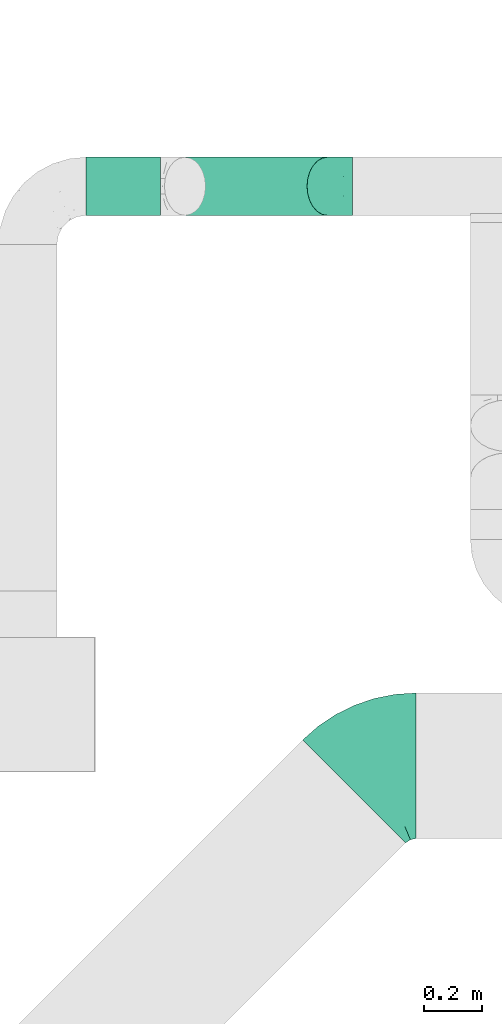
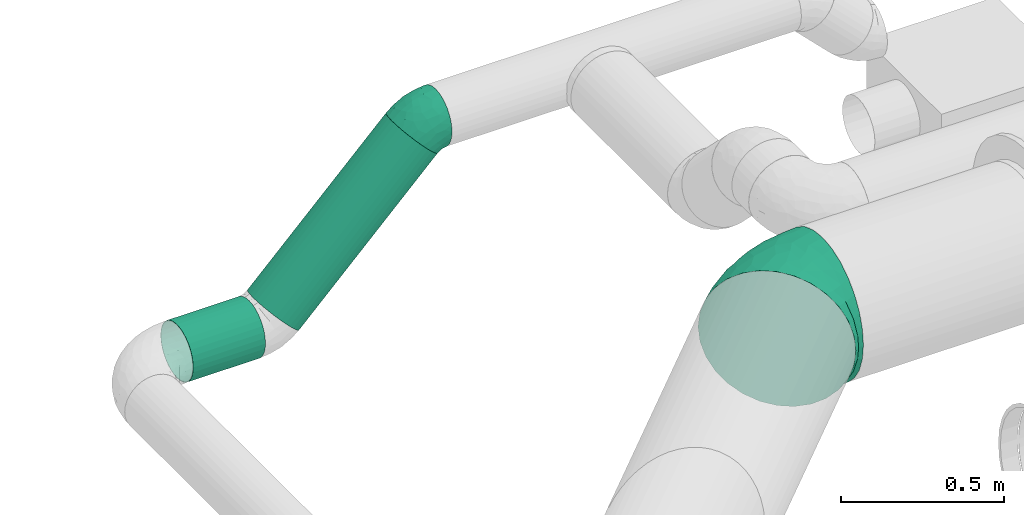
# One storey, part 11 of 31: 2 flow fittings, 2 flow segments.
"""IFC2X3 building model written with IfcOpenShell, lengths in millimetres."""

from ifc_helpers import new_model, entity, si_unit, converted_unit, derived_unit, direction, frame, origin_with_axes, origin_2d_with_axis, place, context, subcontext, project, spatial, hollow_circle, extrude, open_shell, surface_model, source, transform, mapped, type_object, element, save


model = new_model("IFC2X3")

# Units and contexts
model_context = context("Model", 3, precision=0.01, world=frame((0.0, 4.29681676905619e-09, 0.0)), true_north=direction((4.01073788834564e-13, 1.0)))
plan_context = context("Plan", 3, precision=0.01, world=frame((0.0, 4.29681676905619e-09, 0.0)), true_north=direction((4.01073788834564e-13, 1.0)))
body_context = subcontext(model_context, "Body", "Model", "MODEL_VIEW")
ifc_project = project(units=[converted_unit("PLANEANGLEUNIT", "DEGREE", entity("IfcPositiveLengthMeasure", 0.0174532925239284), si_unit("PLANEANGLEUNIT", "RADIAN"), dimensions=[0, 0, 0, 0, 0, 0, 0]), si_unit("AREAUNIT", "SQUARE_METRE"), si_unit("LENGTHUNIT", "METRE", prefix="MILLI"), si_unit("MASSUNIT", "GRAM", prefix="KILO"), si_unit("POWERUNIT", "WATT"), si_unit("PRESSUREUNIT", "PASCAL", prefix="KILO"), si_unit("FORCEUNIT", "NEWTON", prefix="KILO"), si_unit("ELECTRICVOLTAGEUNIT", "VOLT"), si_unit("ELECTRICCURRENTUNIT", "AMPERE"), si_unit("THERMODYNAMICTEMPERATUREUNIT", "DEGREE_CELSIUS"), si_unit("TIMEUNIT", "SECOND"), si_unit("VOLUMEUNIT", "CUBIC_METRE"), derived_unit("LINEARVELOCITYUNIT", [(si_unit("LENGTHUNIT", "METRE"), 1), (si_unit("TIMEUNIT", "SECOND"), -1)]), derived_unit("VOLUMETRICFLOWRATEUNIT", [(si_unit("VOLUMEUNIT", "CUBIC_METRE"), 1), (si_unit("TIMEUNIT", "SECOND"), -1)]), derived_unit("THERMALTRANSMITTANCEUNIT", [(si_unit("POWERUNIT", "WATT"), 1), (si_unit("THERMODYNAMICTEMPERATUREUNIT", "KELVIN"), -1), (si_unit("AREAUNIT", "SQUARE_METRE"), -1)]), derived_unit("SOUNDPRESSUREUNIT", [(si_unit("PRESSUREUNIT", "PASCAL"), 1)])], contexts=[model_context, plan_context])

# Site, building, storey
site_placement = place(None, frame((0.0, -4.29681676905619e-09, 0.0), z_axis=(0.0, 0.0, 1.0), x_axis=(1.0, 0.0, 0.0)))
site = spatial("IfcSite", under=ifc_project, at=site_placement, CompositionType="ELEMENT")
building_placement = place(site_placement, frame((0.0, 4.29681676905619e-09, 0.0), z_axis=(0.0, 0.0, 1.0), x_axis=(1.0, 0.0, 0.0)))
building = spatial("IfcBuilding", under=site, at=building_placement, Name="mc-building", CompositionType="ELEMENT")
storey_placement = place(building_placement, frame((0.0, 0.0, 210900.0), z_axis=(0.0, 0.0, 1.0), x_axis=(1.0, 0.0, 0.0)))
storey = spatial("IfcBuildingStorey", under=building, at=storey_placement, Name="Nivå F", CompositionType="ELEMENT", Elevation=210900.0)

# Flow fittings
duct_fitting_type = type_object("IfcDuctFittingType", Name="magicirc_elbow_short_001", PredefinedType="BEND")
shared_shape_1 = source(origin_with_axes(), body_context, "Body", "SurfaceModel", [
    surface_model("IfcShellBasedSurfaceModel", [(-124.26407, 0.0, -250.0), (-124.26407, -108.47093, -225.24221), (-124.26407, 55.63023, -243.73198), (-124.26407, 108.47093, -225.24221), (-124.26407, 155.87244, -195.45787), (-124.26407, 195.45787, -155.87244), (-124.26407, 243.73198, -55.63023), (-124.26407, 225.24221, -108.47093), (-124.26407, -250.0, 0.0), (-124.26407, -243.73198, 55.63023), (-124.26407, -155.87244, -195.45787), (-124.26407, -55.63023, -243.73198), (-124.26407, -225.24221, -108.47093), (-124.26407, -195.45787, -155.87244), (-124.26407, -243.73198, -55.63023), (-124.26407, 225.24221, 108.47093), (-124.26407, 243.73198, 55.63023), (-124.26407, 250.0, 0.0), (-124.26407, 195.45787, 155.87244), (-124.26407, 155.87244, 195.45787), (-124.26407, -195.45787, 155.87244), (-124.26407, 108.47093, 225.24221), (-124.26407, 55.63023, 243.73198), (-124.26407, 0.0, 250.0), (-124.26407, -225.24221, 108.47093), (-124.26407, -108.47093, 225.24221), (-124.26407, -55.63023, 243.73198), (-124.26407, -155.87244, 195.45787), (48.53145, 127.20448, -243.73198), (127.20448, 48.53145, -243.73198), (87.86797, 87.86797, -250.0), (-50.34162, 226.07755, -155.87244), (11.16743, 164.5685, -225.24221), (-71.40233, 247.13826, -108.47093), (-84.47657, 260.2125, -55.63023), (-22.3505, 198.08644, -195.45787), (-50.34162, 226.07755, 155.87244), (247.13826, -71.40233, -108.47093), (198.08644, -22.3505, -195.45787), (164.5685, 11.16743, -225.24221), (226.07755, -50.34162, -155.87244), (264.64466, -88.90873, 0.0), (260.2125, -84.47657, -55.63023), (-22.3505, 198.08644, 195.45787), (-71.40233, 247.13826, 108.47093), (-84.47657, 260.2125, 55.63023), (11.16743, 164.5685, 225.24221), (48.53145, 127.20448, 243.73198), (87.86797, 87.86797, 250.0), (247.13826, -71.40233, 108.47093), (164.5685, 11.16743, 225.24221), (226.07755, -50.34162, 155.87244), (260.2125, -84.47657, 55.63023), (127.20448, 48.53145, 243.73198), (198.08644, -22.3505, 195.45787), (-88.90873, 264.64466, 0.0), (-90.45276, 124.02841, 218.87221), (-91.29459, 169.55488, 187.41752), (-98.68552, -248.32349, 0.0), (-69.42755, -238.38074, 65.87002), (153.34237, -48.71188, 203.14038), (-52.47466, -245.29468, 0.0), (-76.6666, -216.92271, 120.37881), (-22.89006, -216.92012, 105.24681), (217.65332, -119.46794, 65.87002), (180.64533, -156.32916, 0.0), (210.55472, -136.34434, 0.0), (-60.85928, -185.74402, 162.63886), (-73.98493, -142.87393, 203.14038), (-83.39213, 71.51366, 240.60628), (-67.30817, 13.9977, 249.85946), (73.43929, -100.41393, 202.53266), (13.85174, -54.30021, 236.76331), (26.85313, -105.62493, 211.77383), (-79.75907, -93.02021, 231.02734), (18.08641, -231.25921, 0.0), (31.47339, -218.76937, 64.10343), (-12.38539, -232.71705, 52.90321), (-50.05253, 120.83747, 226.38), (-55.33839, 184.44843, 187.41754), (8.39934, 109.53494, 240.60626), (118.79401, -188.00815, 48.81791), (86.21182, -208.13373, 0.0), (118.47387, -192.22386, 0.0), (-76.90491, -39.94821, 246.23375), (174.37486, -88.30686, 162.63886), (82.62762, 26.13229, 246.23375), (37.69616, 57.49191, 249.85946), (-97.69053, 235.8458, 96.65448), (-103.71583, 250.39217, 42.8242), (-105.12989, 253.80602, 0.0), (-23.74157, 151.66109, 218.87221), (-31.90323, -27.98993, 246.65716), (-39.57952, 42.84314, 248.28201), (-86.07174, 207.79558, 149.73476), (36.6163, -190.48641, 125.53417), (57.55935, -141.01975, 176.52244), (-6.93499, -157.46464, 181.17025), (168.1542, -159.36852, 51.94573), (169.57139, -137.19997, 105.24681), (207.59899, -99.17604, 120.37881), (42.35083, 2.7671, 246.65716), (115.55917, -106.89858, 181.12833), (245.37243, -105.81003, 0.0), (-17.19413, -238.27693, 0.0), (-6.59652, 63.81406, 247.37605), (-12.71298, -191.00061, 145.19814), (121.99205, -9.63542, 230.99042), (137.83324, -132.71637, 141.78754), (105.44893, -165.89734, 119.75665), (137.26371, -165.70422, 87.69769), (-27.37301, -98.77366, 224.31491), (68.664, -168.11276, 141.19415), (-4.4639, 10.77677, 249.65902), (88.81264, -50.91073, 224.2359), (-38.98412, 82.5717, 241.00831), (150.73593, -176.31397, 0.0), (75.56208, -197.19449, 82.92058), (67.46947, -211.94417, 40.66553), (52.14911, -219.69647, 0.0), (-83.39213, 71.51366, -240.60628), (-67.30817, 13.9977, -249.85946), (174.37486, -88.30686, -162.63886), (-76.90491, -39.94821, -246.23375), (-12.71298, -191.00061, -145.19814), (-60.85928, -185.74402, -162.63886), (-6.93499, -157.46464, -181.17025), (-22.89006, -216.92012, -105.24681), (-97.69053, 235.8458, -96.65448), (-86.07174, 207.79558, -149.73476), (-73.98493, -142.87393, -203.14038), (153.34237, -48.71188, -203.14038), (115.55917, -106.89858, -181.12833), (88.81264, -50.91073, -224.2359), (-31.90323, -27.98993, -246.65716), (-4.4639, 10.77677, -249.65902), (28.42363, -48.05229, -236.8304), (-91.29459, 169.55488, -187.41752), (-103.71583, 250.39217, -42.8242), (-55.33839, 184.44843, -187.41754), (-40.45894, 49.78777, -247.37605), (-90.45276, 124.02841, -218.87221), (-69.42755, -238.38074, -65.87002), (-76.6666, -216.92271, -120.37881), (-50.05253, 120.83747, -226.38), (207.59899, -99.17604, -120.37881), (217.65332, -119.46794, -65.87002), (169.57139, -137.19997, -105.24681), (37.69616, 57.49191, -249.85946), (82.62762, 26.13229, -246.23375), (42.35083, 2.7671, -246.65716), (-20.90065, -234.14123, -54.21618), (31.47339, -218.76937, -64.10343), (-23.74157, 151.66109, -218.87221), (36.6163, -190.48641, -125.53417), (143.87468, -126.12906, -145.25502), (-79.75907, -93.02021, -231.02734), (-27.37301, -98.77366, -224.31491), (8.39934, 109.53494, -240.60626), (118.79401, -188.00815, -48.81791), (168.1542, -159.36852, -51.94573), (121.99205, -9.63542, -230.99042), (-2.30776, 58.28161, -248.28201), (75.56208, -197.19449, -82.92058), (10.81175, -84.87887, -225.51932), (55.02329, -94.04809, -211.73768), (17.87079, -122.84009, -202.87383), (-30.8211, 85.95292, -241.00831), (57.55935, -141.01975, -176.52244), (68.664, -168.11276, -141.19415), (105.44893, -165.89734, -119.75665), (137.26371, -165.70422, -87.69769), (67.46947, -211.94417, -40.66553)], [open_shell([[[0, 1, 2]], [[3, 2, 4]], [[5, 6, 7]], [[2, 6, 5]], [[5, 4, 2]], [[2, 8, 9]], [[1, 10, 2]], [[0, 11, 1]], [[12, 10, 13]], [[12, 14, 8]], [[12, 2, 10]], [[12, 8, 2]], [[9, 6, 2]], [[15, 16, 17]], [[18, 15, 17]], [[9, 19, 18]], [[20, 21, 19]], [[17, 9, 18]], [[22, 21, 23]], [[24, 20, 9]], [[20, 19, 9]], [[25, 26, 23]], [[25, 20, 27]], [[23, 20, 25]], [[20, 23, 21]], [[6, 9, 17]], [[28, 29, 30]], [[31, 28, 32]], [[33, 34, 31]], [[31, 34, 28]], [[32, 35, 31]], [[36, 37, 28]], [[29, 38, 39]], [[29, 28, 38]], [[40, 38, 37]], [[41, 42, 37]], [[37, 38, 28]], [[37, 43, 41]], [[44, 28, 34]], [[34, 45, 44]], [[28, 44, 36]], [[43, 46, 41]], [[41, 46, 47]], [[36, 43, 37]], [[47, 48, 41]], [[49, 50, 51]], [[52, 41, 49]], [[48, 53, 50]], [[54, 51, 50]], [[50, 49, 48]], [[48, 49, 41]], [[45, 34, 55]], [[56, 57, 19]], [[58, 59, 9]], [[60, 54, 50]], [[9, 59, 24]], [[61, 59, 58]], [[62, 59, 63]], [[20, 24, 62]], [[64, 65, 66]], [[67, 20, 62]], [[27, 67, 68]], [[69, 22, 70]], [[71, 72, 73]], [[26, 25, 74]], [[75, 76, 77]], [[78, 79, 57]], [[47, 46, 80]], [[81, 82, 83]], [[23, 70, 22]], [[23, 84, 70]], [[21, 56, 19]], [[69, 21, 22]], [[85, 51, 54]], [[86, 48, 87]], [[16, 15, 88]], [[89, 17, 16]], [[90, 17, 89]], [[78, 91, 79]], [[70, 92, 93]], [[15, 18, 94]], [[18, 19, 57]], [[57, 94, 18]], [[63, 76, 95]], [[96, 97, 95]], [[91, 80, 46]], [[23, 26, 84]], [[27, 68, 25]], [[85, 54, 60]], [[98, 64, 99]], [[88, 89, 16]], [[86, 53, 48]], [[94, 57, 79]], [[64, 52, 49]], [[100, 85, 99]], [[49, 51, 100]], [[87, 101, 86]], [[70, 84, 92]], [[85, 60, 102]], [[64, 103, 52]], [[61, 104, 77]], [[87, 80, 105]], [[36, 44, 94]], [[94, 44, 88]], [[100, 64, 49]], [[88, 45, 89]], [[106, 97, 67]], [[90, 89, 55]], [[50, 53, 107]], [[47, 87, 48]], [[36, 94, 79]], [[36, 79, 43]], [[108, 109, 110]], [[68, 97, 111]], [[112, 96, 95]], [[43, 91, 46]], [[87, 47, 80]], [[101, 113, 72]], [[101, 87, 113]], [[20, 67, 27]], [[107, 86, 114]], [[87, 105, 113]], [[74, 84, 26]], [[111, 72, 92]], [[93, 113, 105]], [[69, 115, 56]], [[97, 68, 67]], [[74, 68, 111]], [[106, 67, 63]], [[97, 96, 73]], [[64, 98, 65]], [[98, 81, 116]], [[95, 76, 117]], [[108, 85, 102]], [[107, 60, 50]], [[73, 96, 71]], [[114, 102, 60]], [[102, 96, 112]], [[94, 88, 15]], [[44, 45, 88]], [[59, 62, 24]], [[67, 62, 63]], [[85, 100, 51]], [[64, 100, 99]], [[79, 91, 43]], [[80, 91, 78]], [[69, 56, 21]], [[57, 56, 78]], [[86, 107, 53]], [[60, 107, 114]], [[68, 74, 25]], [[84, 74, 111]], [[78, 115, 80]], [[115, 69, 93]], [[115, 93, 105]], [[69, 70, 93]], [[92, 113, 93]], [[114, 86, 101]], [[73, 72, 111]], [[114, 101, 72]], [[111, 92, 84]], [[72, 113, 92]], [[118, 119, 82]], [[81, 117, 118]], [[80, 115, 105]], [[115, 78, 56]], [[77, 76, 63]], [[77, 59, 61]], [[116, 65, 98]], [[81, 110, 109]], [[110, 98, 99]], [[109, 112, 117]], [[119, 118, 76]], [[81, 109, 117]], [[97, 73, 111]], [[96, 102, 71]], [[102, 114, 71]], [[72, 71, 114]], [[9, 8, 58]], [[103, 64, 66]], [[103, 41, 52]], [[55, 89, 45]], [[63, 95, 106]], [[95, 97, 106]], [[117, 112, 95]], [[102, 112, 109]], [[85, 108, 99]], [[102, 109, 108]], [[76, 75, 119]], [[81, 118, 82]], [[76, 118, 117]], [[59, 77, 63]], [[75, 77, 104]], [[98, 110, 81]], [[116, 81, 83]], [[108, 110, 99]], [[120, 121, 2]], [[38, 40, 122]], [[11, 0, 123]], [[124, 125, 126]], [[2, 121, 0]], [[125, 124, 127]], [[7, 128, 129]], [[125, 130, 126]], [[131, 132, 133]], [[134, 135, 136]], [[137, 4, 5]], [[129, 137, 5]], [[138, 128, 6]], [[31, 35, 139]], [[121, 120, 140]], [[4, 141, 3]], [[12, 142, 14]], [[143, 142, 12]], [[142, 58, 14]], [[144, 137, 139]], [[12, 13, 143]], [[145, 146, 147]], [[10, 130, 125]], [[148, 149, 150]], [[151, 61, 142]], [[42, 41, 103]], [[75, 151, 152]], [[153, 139, 35]], [[127, 154, 152]], [[143, 125, 127]], [[30, 29, 149]], [[155, 132, 122]], [[17, 90, 138]], [[156, 123, 157]], [[55, 34, 138]], [[129, 139, 137]], [[7, 6, 128]], [[130, 10, 1]], [[146, 66, 65]], [[129, 5, 7]], [[35, 32, 153]], [[123, 0, 121]], [[156, 1, 11]], [[30, 149, 148]], [[148, 28, 30]], [[158, 32, 28]], [[116, 159, 160]], [[129, 31, 139]], [[33, 31, 129]], [[161, 29, 39]], [[122, 40, 145]], [[125, 13, 10]], [[148, 150, 162]], [[65, 116, 160]], [[152, 154, 163]], [[131, 38, 122]], [[146, 37, 42]], [[164, 165, 166]], [[146, 103, 66]], [[38, 131, 39]], [[144, 141, 137]], [[103, 146, 42]], [[121, 134, 123]], [[37, 145, 40]], [[158, 28, 148]], [[2, 3, 120]], [[121, 140, 135]], [[6, 17, 138]], [[134, 121, 135]], [[141, 120, 3]], [[161, 149, 29]], [[133, 136, 150]], [[162, 135, 140]], [[158, 167, 153]], [[156, 130, 1]], [[165, 168, 166]], [[157, 126, 130]], [[126, 168, 154]], [[169, 154, 168]], [[104, 151, 75]], [[169, 132, 170]], [[159, 171, 160]], [[132, 131, 122]], [[161, 131, 133]], [[122, 147, 155]], [[132, 168, 165]], [[34, 33, 128]], [[129, 128, 33]], [[125, 143, 13]], [[142, 143, 127]], [[146, 145, 37]], [[122, 145, 147]], [[137, 141, 4]], [[120, 141, 144]], [[158, 153, 32]], [[139, 153, 144]], [[123, 156, 11]], [[130, 156, 157]], [[131, 161, 39]], [[149, 161, 133]], [[144, 167, 120]], [[167, 158, 162]], [[167, 162, 140]], [[158, 148, 162]], [[150, 135, 162]], [[157, 123, 134]], [[165, 136, 133]], [[134, 136, 164]], [[133, 150, 149]], [[136, 135, 150]], [[154, 169, 163]], [[172, 152, 163]], [[120, 167, 140]], [[167, 144, 153]], [[127, 151, 142]], [[159, 116, 83]], [[65, 160, 146]], [[146, 160, 147]], [[152, 172, 119]], [[171, 159, 170]], [[132, 165, 133]], [[168, 126, 166]], [[126, 157, 166]], [[164, 166, 157]], [[170, 159, 163]], [[172, 159, 82]], [[134, 164, 157]], [[165, 164, 136]], [[58, 142, 61]], [[58, 8, 14]], [[55, 138, 90]], [[128, 138, 34]], [[126, 154, 124]], [[154, 127, 124]], [[132, 169, 168]], [[163, 169, 170]], [[171, 155, 147]], [[170, 132, 155]], [[119, 172, 82]], [[119, 75, 152]], [[159, 172, 163]], [[152, 151, 127]], [[61, 151, 104]], [[155, 171, 170]], [[82, 159, 83]], [[160, 171, 147]]])]),
])
flow_fitting_1_placement = place(storey_placement, frame((718409.14762, 440215.23198, 3950.0), z_axis=(0.0, 0.0, 1.0), x_axis=(-1.0, 0.0, 0.0)))
element("IfcFlowFitting", 1, at=flow_fitting_1_placement, inside=storey, type_object=duct_fitting_type, Name="magicirc_elbow_short_001", context=body_context, shape_type="MappedRepresentation", body=[
    mapped(shared_shape_1, transform((0.0, 0.0, 0.0), scale=1.0)),
])
shared_shape_2 = source(origin_with_axes(), body_context, "Body", "SurfaceModel", [
    surface_model("IfcShellBasedSurfaceModel", [(4.68854, -11.31915, -97.51858), (-24.78682, -14.91401, -98.51039), (-21.98306, 11.532, -99.67584), (-49.70565, 0.0, -100.0), (-49.70565, -70.71068, -70.71068), (-49.70565, 25.8819, -96.59259), (-49.70565, 50.0, -86.60254), (-49.70565, 70.71068, -70.71068), (-49.70565, 96.59259, -25.8819), (-49.70565, 86.60254, -50.0), (-49.70565, -86.60254, -50.0), (-49.70565, -50.0, -86.60254), (-49.70565, -25.8819, -96.59259), (-49.70565, -96.59259, -25.8819), (-49.70565, -100.0, 0.0), (-49.70565, 96.59259, 25.8819), (-49.70565, 25.8819, 96.59259), (-49.70565, 86.60254, 50.0), (-49.70565, 50.0, 86.60254), (-49.70565, 70.71068, 70.71068), (-49.70565, -25.8819, 96.59259), (-49.70565, -70.71068, 70.71068), (-49.70565, -50.0, 86.60254), (-49.70565, -86.60254, 50.0), (-49.70565, -96.59259, 25.8819), (-49.70565, 0.0, 100.0), (-49.70565, 100.0, 0.0), (16.84591, 53.44847, -96.59259), (85.1472, -14.85278, -70.71068), (35.14719, 35.14721, -100.0), (-14.85282, 85.14719, -70.71068), (-0.20816, 70.50254, -86.60254), (-26.09007, 96.38443, -50.0), (-33.1541, 103.44846, -25.8819), (105.85789, -35.56345, 0.0), (53.44846, 16.84594, -96.59259), (70.50254, -0.20812, -86.60254), (96.38445, -26.09002, -50.0), (103.44848, -33.15404, -25.8819), (-33.1541, 103.44846, 25.8819), (16.84591, 53.44847, 96.59259), (-14.85282, 85.14719, 70.71068), (-26.09007, 96.38443, 50.0), (-0.20816, 70.50254, 86.60254), (53.44846, 16.84594, 96.59259), (103.44848, -33.15404, 25.8819), (85.1472, -14.85278, 70.71068), (96.38445, -26.09002, 50.0), (70.50254, -0.20812, 86.60254), (35.14719, 35.14721, 100.0), (-35.56351, 105.85786, 0.0), (-6.65981, -78.69465, 55.32131), (-18.13184, -91.89202, 33.47276), (-24.86597, -97.5535, 0.0), (-6.78576, -95.77276, 0.0), (22.49479, -82.45996, 31.38069), (29.12437, -69.42701, 52.3949), (12.37742, -29.88175, 90.64522), (37.12406, -18.70606, 89.97421), (4.68854, -11.31914, 97.51858), (-18.231, -62.02139, 76.22982), (-13.02349, -39.47786, 89.97421), (22.87885, -55.23445, 71.73393), (-24.78682, -14.914, 98.5104), (-21.41192, 11.5723, 99.68416), (7.39001, 23.69873, 99.67584), (-15.97928, 38.57739, 94.78597), (-33.08074, 79.86395, 64.3352), (-23.56301, 62.37217, 82.35825), (34.48473, -83.25349, 0.0), (42.49433, -77.90549, 18.20625), (-42.05198, 101.52241, 0.0), (72.51984, -62.92329, 0.0), (86.56366, -51.39782, 0.0), (63.9186, -66.36327, 18.52111), (-38.64635, 93.30051, 41.23913), (50.71647, -68.4272, 35.42053), (77.79862, -52.1563, 33.47276), (60.35472, -50.93632, 55.3213), (28.07273, 6.98115, 98.51039), (56.747, -30.96448, 76.22981), (53.50229, -73.08839, 0.0), (13.84949, -89.51313, 0.0), (60.35473, -50.93631, -55.32131), (37.12406, -18.70605, -89.97421), (-38.64635, 93.30051, -41.23913), (-33.08075, 79.86395, -64.3352), (-27.44224, 60.76535, -82.35825), (-15.97928, 38.57738, -94.78597), (12.37743, -29.88176, -90.64522), (22.87886, -55.23445, -71.73393), (-13.02349, -39.47786, -89.97421), (6.95765, 23.32335, -99.68416), (-6.6598, -78.69465, -55.32131), (-18.13183, -91.89201, -33.47277), (77.79862, -52.1563, -33.47277), (-18.231, -62.02139, -76.22982), (42.40179, -74.2142, -31.38069), (12.52339, -84.24729, -35.42053), (28.49829, -69.68634, -52.39491), (25.0395, -85.13552, -18.20625), (1.72867, -92.12319, -18.52111), (28.07273, 6.98115, -98.51039), (56.74701, -30.96447, -76.22982)], [open_shell([[[0, 1, 2]], [[3, 4, 5]], [[6, 5, 7]], [[8, 9, 7]], [[10, 7, 5]], [[7, 10, 8]], [[11, 4, 12]], [[4, 3, 12]], [[13, 14, 10]], [[10, 5, 4]], [[10, 14, 8]], [[14, 15, 8]], [[16, 15, 14]], [[17, 15, 16]], [[16, 18, 19]], [[17, 16, 19]], [[20, 16, 14]], [[21, 22, 23]], [[24, 23, 22]], [[22, 20, 24]], [[24, 20, 14]], [[20, 25, 16]], [[15, 26, 8]], [[27, 28, 29]], [[30, 27, 31]], [[30, 32, 33]], [[30, 33, 27]], [[34, 27, 33]], [[35, 28, 36]], [[35, 29, 28]], [[37, 34, 38]], [[34, 37, 28]], [[27, 34, 28]], [[33, 39, 34]], [[39, 40, 34]], [[41, 39, 42]], [[43, 40, 39]], [[43, 39, 41]], [[34, 40, 44]], [[45, 46, 47]], [[45, 34, 46]], [[48, 46, 34]], [[44, 48, 34]], [[40, 49, 44]], [[39, 33, 50]], [[51, 23, 52]], [[53, 54, 52]], [[51, 55, 56]], [[57, 58, 59]], [[22, 60, 61]], [[61, 60, 62]], [[21, 23, 51]], [[59, 63, 61]], [[63, 25, 20]], [[16, 25, 64]], [[59, 65, 64]], [[20, 22, 61]], [[52, 23, 24]], [[18, 16, 66]], [[67, 68, 41]], [[67, 17, 19]], [[66, 16, 64]], [[22, 21, 60]], [[69, 70, 55]], [[71, 15, 39]], [[72, 73, 74]], [[71, 26, 15]], [[15, 17, 75]], [[76, 77, 78]], [[68, 18, 66]], [[63, 64, 25]], [[51, 52, 55]], [[21, 51, 60]], [[44, 79, 58]], [[52, 24, 53]], [[78, 47, 46]], [[48, 44, 58]], [[57, 62, 58]], [[77, 47, 78]], [[46, 48, 80]], [[58, 80, 48]], [[77, 73, 45]], [[55, 76, 56]], [[44, 49, 79]], [[59, 79, 65]], [[67, 42, 75]], [[66, 65, 40]], [[39, 75, 42]], [[76, 74, 77]], [[50, 71, 39]], [[40, 43, 66]], [[49, 40, 65]], [[80, 62, 78]], [[41, 68, 43]], [[47, 77, 45]], [[43, 68, 66]], [[64, 65, 66]], [[18, 68, 19]], [[62, 80, 58]], [[70, 81, 74]], [[78, 46, 80]], [[62, 60, 51]], [[68, 67, 19]], [[41, 42, 67]], [[56, 78, 62]], [[24, 14, 53]], [[78, 56, 76]], [[51, 56, 62]], [[61, 63, 20]], [[64, 63, 59]], [[65, 79, 49]], [[58, 79, 59]], [[74, 76, 70]], [[15, 75, 39]], [[76, 55, 70]], [[52, 82, 55]], [[81, 70, 69]], [[81, 72, 74]], [[77, 74, 73]], [[73, 34, 45]], [[67, 75, 17]], [[59, 61, 57]], [[62, 57, 61]], [[82, 52, 54]], [[82, 69, 55]], [[28, 37, 83]], [[35, 36, 84]], [[3, 5, 2]], [[1, 12, 3]], [[9, 85, 86]], [[31, 87, 30]], [[88, 6, 87]], [[6, 7, 87]], [[89, 90, 91]], [[27, 29, 92]], [[85, 8, 33]], [[93, 94, 10]], [[95, 38, 73]], [[94, 53, 13]], [[0, 2, 92]], [[96, 11, 91]], [[97, 98, 99]], [[96, 4, 11]], [[10, 94, 13]], [[98, 94, 93]], [[4, 93, 10]], [[11, 12, 91]], [[100, 82, 101]], [[96, 90, 93]], [[69, 100, 97]], [[8, 26, 71]], [[93, 4, 96]], [[71, 50, 33]], [[88, 2, 5]], [[33, 32, 85]], [[31, 88, 87]], [[83, 97, 99]], [[6, 88, 5]], [[1, 91, 12]], [[31, 27, 88]], [[9, 86, 7]], [[84, 89, 0]], [[88, 27, 92]], [[84, 0, 102]], [[92, 2, 88]], [[90, 84, 103]], [[84, 36, 103]], [[95, 37, 38]], [[29, 35, 102]], [[95, 83, 37]], [[86, 87, 7]], [[95, 73, 72]], [[54, 53, 101]], [[98, 101, 94]], [[97, 83, 95]], [[36, 28, 103]], [[102, 92, 29]], [[90, 103, 83]], [[33, 8, 71]], [[90, 96, 91]], [[28, 83, 103]], [[32, 30, 86]], [[87, 86, 30]], [[99, 93, 90]], [[94, 101, 53]], [[93, 99, 98]], [[83, 99, 90]], [[2, 1, 3]], [[91, 1, 0]], [[84, 102, 35]], [[92, 102, 0]], [[101, 98, 100]], [[86, 85, 32]], [[98, 97, 100]], [[95, 81, 97]], [[82, 100, 69]], [[82, 54, 101]], [[53, 14, 13]], [[8, 85, 9]], [[38, 34, 73]], [[90, 89, 84]], [[91, 0, 89]], [[81, 95, 72]], [[81, 69, 97]]])]),
])
flow_fitting_2_placement = place(storey_placement, frame((718265.44579, 442205.1766, 3525.0), z_axis=(0.0, 1.0, 0.0), x_axis=(0.707106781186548, 0.0, 0.707106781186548)))
element("IfcFlowFitting", 2, at=flow_fitting_2_placement, inside=storey, type_object=duct_fitting_type, Name="magicirc_elbow_short_001", context=body_context, shape_type="MappedRepresentation", body=[
    mapped(shared_shape_2, transform((0.0, 0.0, 0.0), scale=1.0)),
])

# Flow segments
duct_segment_type = type_object("IfcDuctSegmentType", Name="KK001T - Spiro kanaler, Forsinket stål", PredefinedType="RIGIDSEGMENT")
shared_shape_3 = source(origin_with_axes(), body_context, "Body", "SweptSolid", [
    extrude(hollow_circle(Radius=100.0, WallThickness=2.0, at=origin_2d_with_axis()), frame((0.0, 0.0, 0.0), z_axis=(1.0, 0.0, 0.0), x_axis=(0.0, 1.0, 0.0)), (0.0, 0.0, 1.0), 255.3),
])
flow_segment_1_placement = place(storey_placement, frame((717400.44584, 442205.1766, 2965.01186999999), z_axis=(0.0, 0.0, 1.0), x_axis=(1.0, 0.0, 0.0)))
element("IfcFlowSegment", 3, at=flow_segment_1_placement, inside=storey, type_object=duct_segment_type, Name="KK001T - Spiro kanaler, Forsinket stål", context=body_context, shape_type="MappedRepresentation", body=[
    mapped(shared_shape_3, transform((0.0, 0.0, 0.0), scale=1.0)),
])
shared_shape_4 = source(origin_with_axes(), body_context, "Body", "SweptSolid", [
    extrude(hollow_circle(Radius=100.0, WallThickness=2.0, at=origin_2d_with_axis()), frame((0.0, 0.0, 0.0), z_axis=(1.0, 0.0, 0.0), x_axis=(0.0, 1.0, 0.0)), (0.0, 0.0, 1.0), 692.5),
])
flow_segment_2_placement = place(storey_placement, frame((717740.60516, 442205.1766, 3000.15908000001), z_axis=(-0.707106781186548, 0.0, 0.707106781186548), x_axis=(0.707106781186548, 0.0, 0.707106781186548)))
element("IfcFlowSegment", 4, at=flow_segment_2_placement, inside=storey, type_object=duct_segment_type, Name="KK001T - Spiro kanaler, Forsinket stål", context=body_context, shape_type="MappedRepresentation", body=[
    mapped(shared_shape_4, transform((0.0, 0.0, 0.0), scale=1.0)),
])

save(model, "model.ifc")
